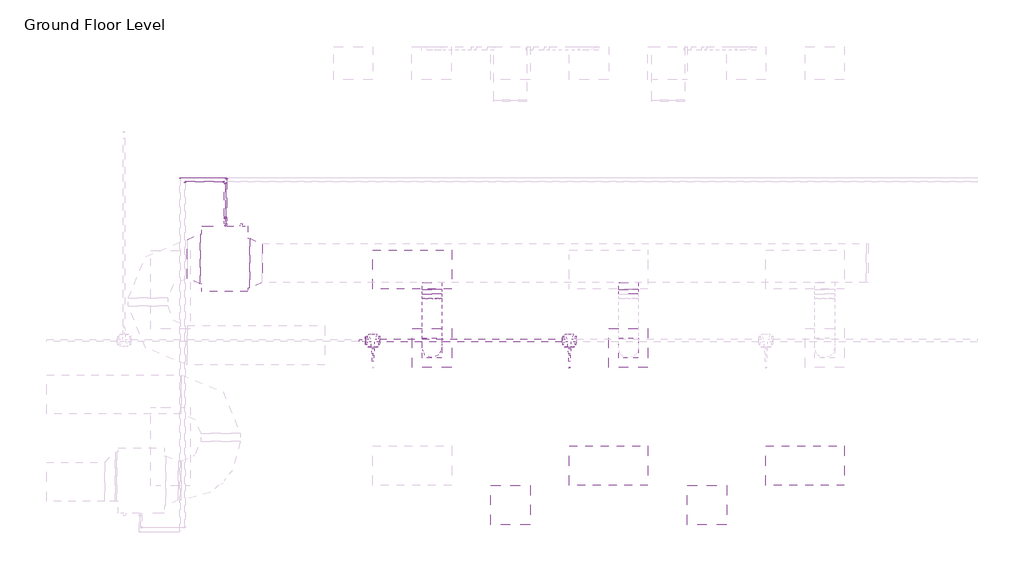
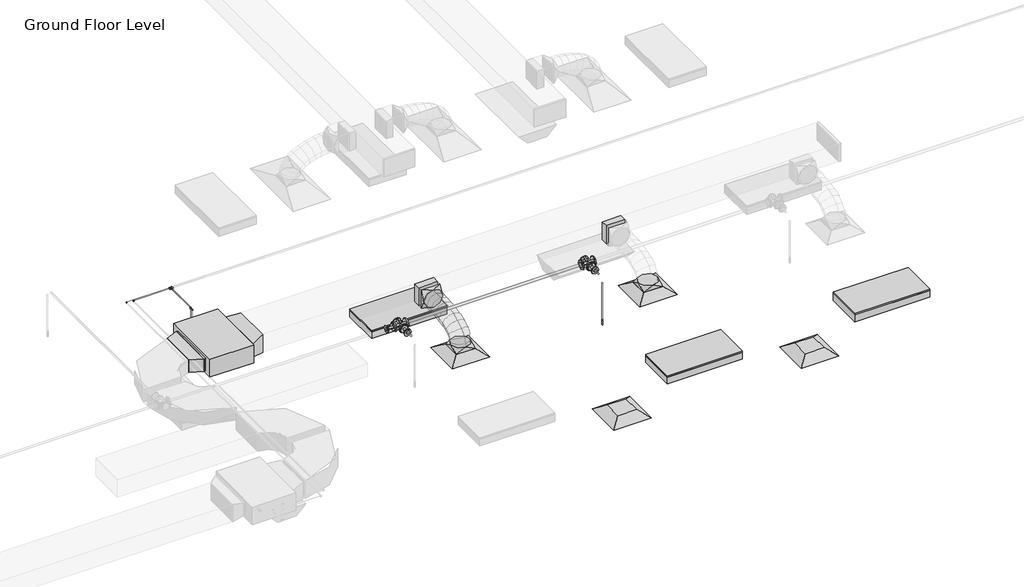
# One storey, part 12 of 74: 17 pipe fittings, 12 pipe segments, 7 duct fittings, 4 air terminals, 4 duct segments, 3 light fixtures, 1 fire suppression terminal, 1 proxy.
"""IFC4 building model written with IfcOpenShell, lengths in millimetres."""

from ifc_helpers import new_model, si_unit, point, frame, frame_2d, origin, place, context, project, spatial, polyline, circle_curve, ellipse_curve, trimmed, segment, composite_curve, outline, extrude, transform, mapped, element, save
from ifc_brep_helpers import plane_surface, cylinder_surface, advanced_brep
from components import m_return_diffuser_600_x_600_face_300_x_300_connection_ff221211, fcu_daikin_iu_7e1df382, m_rectangular_takeoff_standard_2be5eba1, m_rectangular_transition_angle_45_degree_ee72770e, m_rectangular_transition_angle_45_degree_4bb09f68, m_rectangular_to_round_transition_angle_45_degree_641efff0, m_sprinkler_dry_pendent_hosted_15_mm_dry_pendent_9bda8e11, m_troffer_light_parabolic_rectangular1_0600x1200mm_4_lamp_86473d4a, m_elbow_generic_standard_a088f956, m_elbow_generic_standard_2a704253, m_reducer_flanged_cs_class_150_standard_b6b67c23, m_reducer_flanged_cs_class_150_standard_678fb8eb, m_tee_generic_standard_5b2ed4d4, m_tee_generic_standard_5078887e, m_tee_round_base_flanged_cs_class_150_standard_9c9133d0, m_transition_generic_standard_bdcfe2c1, m_transition_generic_standard_44e35838, m_transition_generic_standard_0bb1ffaf, m_transition_generic_standard_cdf71458

model = new_model("IFC4")

# Units and contexts
model_context = context("Model", 3, world=origin())
ifc_project = project(units=[si_unit("LENGTHUNIT", "METRE", prefix="MILLI")], contexts=[model_context])

# Site, building, storey
site = spatial("IfcSite", under=ifc_project)
building = spatial("IfcBuilding", under=site)
storey = spatial("IfcBuildingStorey", under=building, Name="Ground Floor Level", Elevation=900.0)

# Air terminals
placement = place(None, origin())
m_return_diffuser_600_x_600_face_300_x_300_connection_shape = m_return_diffuser_600_x_600_face_300_x_300_connection_ff221211(model_context)
element("IfcAirTerminal", 1, ObjectType="M_Return Diffuser : 600 x 600 Face 300 x 300 Connection", at=placement, inside=storey, context=model_context, shape_type="MappedRepresentation", body=[
    mapped(m_return_diffuser_600_x_600_face_300_x_300_connection_shape, transform((-6937.2327605, -5464.7846466, 3650.0), x_axis=(1.0, 0.0, 0.0), y_axis=(0.0, 1.0, 0.0), z_axis=(0.0, 0.0, 1.0))),
])
element("IfcAirTerminal", 2, ObjectType="M_Return Diffuser : 600 x 600 Face 300 x 300 Connection", at=placement, inside=storey, context=model_context, shape_type="MappedRepresentation", body=[
    mapped(m_return_diffuser_600_x_600_face_300_x_300_connection_shape, transform((-3937.2327605, -5464.7846466, 3650.0), x_axis=(1.0, 0.0, 0.0), y_axis=(0.0, 1.0, 0.0), z_axis=(0.0, 0.0, 1.0))),
])
element("IfcAirTerminal", 3, ObjectType="M_Supply Diffuser : 600 x 600 Face 300 x 300 Connection", at=placement, inside=storey, context=model_context, shape_type="MappedRepresentation", body=[
    mapped(m_return_diffuser_600_x_600_face_300_x_300_connection_shape, transform((-8137.2327605, -3064.7846466, 3650.0), x_axis=(1.0, 0.0, 0.0), y_axis=(0.0, 1.0, 0.0), z_axis=(0.0, 0.0, 1.0))),
])
element("IfcAirTerminal", 4, ObjectType="M_Supply Diffuser : 600 x 600 Face 300 x 300 Connection", at=placement, inside=storey, context=model_context, shape_type="MappedRepresentation", body=[
    mapped(m_return_diffuser_600_x_600_face_300_x_300_connection_shape, transform((-5137.2327605, -3064.7846466, 3650.0), x_axis=(1.0, 0.0, 0.0), y_axis=(0.0, 1.0, 0.0), z_axis=(0.0, 0.0, 1.0))),
])

# Proxy
fcu_daikin_iu_shape = fcu_daikin_iu_7e1df382(model_context)
element("IfcBuildingElementProxy", 5, Name="FCU-DAIKIN IU : 5.7kW, 230V/50Hz/1Ph", ObjectType="FCU-DAIKIN IU : 5.7kW, 230V/50Hz/1Ph", at=placement, inside=storey, context=model_context, shape_type="MappedRepresentation", body=[
    mapped(fcu_daikin_iu_shape, transform((-11297.2327605, -1704.7846466, 3934.0873731), x_axis=(0.0, 1.0, 0.0), y_axis=(-1.0, 0.0, 0.0), z_axis=(0.0, 0.0, 1.0))),
])

# Duct fittings
m_rectangular_takeoff_standard_shape = m_rectangular_takeoff_standard_2be5eba1(model_context)
element("IfcDuctFitting", 6, ObjectType="M_Rectangular Takeoff : Standard", at=placement, inside=storey, context=model_context, shape_type="MappedRepresentation", body=[
    mapped(m_rectangular_takeoff_standard_shape, transform((-5137.2327605, -2068.2846466, 4099.9923494), x_axis=(0.0, -1.0, 0.0), y_axis=(-1.0, 0.0, 0.0), z_axis=(0.0, 0.0, -1.0))),
])
element("IfcDuctFitting", 7, ObjectType="M_Rectangular Takeoff : Standard", at=placement, inside=storey, context=model_context, shape_type="MappedRepresentation", body=[
    mapped(m_rectangular_takeoff_standard_shape, transform((-8137.2327605, -2068.2846466, 4099.9964558), x_axis=(0.0, -1.0, 0.0), y_axis=(-1.0, 0.0, 0.0), z_axis=(0.0, 0.0, -1.0))),
])
m_rectangular_transition_angle_45_degree_shape = m_rectangular_transition_angle_45_degree_ee72770e(model_context)
element("IfcDuctFitting", 8, ObjectType="M_Rectangular Transition - Angle : 45 Degree", at=placement, inside=storey, context=model_context, shape_type="MappedRepresentation", body=[
    mapped(m_rectangular_transition_angle_45_degree_shape, transform((-10921.8327605, -1768.2846466, 4099.9998731), x_axis=(1.0, 0.0, 0.0), y_axis=(0.0, 1.0, 0.0), z_axis=(0.0, 0.0, 1.0))),
])
m_rectangular_transition_angle_45_degree_2_shape = m_rectangular_transition_angle_45_degree_4bb09f68(model_context)
element("IfcDuctFitting", 9, ObjectType="M_Rectangular Transition - Angle : 45 Degree", at=placement, inside=storey, context=model_context, shape_type="MappedRepresentation", body=[
    mapped(m_rectangular_transition_angle_45_degree_2_shape, transform((-11872.6327605, -1704.7846466, 4075.2873731), x_axis=(1.0, 0.0, 0.0), y_axis=(0.0, 1.0, 0.0), z_axis=(0.0, 0.0, 1.0))),
])
m_rectangular_to_round_transition_angle_45_degree_shape = m_rectangular_to_round_transition_angle_45_degree_641efff0(model_context)
element("IfcDuctFitting", 10, ObjectType="M_Rectangular to Round Transition - Angle : 45 Degree", at=placement, inside=storey, context=model_context, shape_type="MappedRepresentation", body=[
    mapped(m_rectangular_to_round_transition_angle_45_degree_shape, transform((-5137.2327605, -3064.7846466, 3751.6), x_axis=(0.0, 0.0, 1.0), y_axis=(-1.0, 0.0, 0.0), z_axis=(0.0, -1.0, 0.0))),
])
element("IfcDuctFitting", 11, ObjectType="M_Rectangular to Round Transition - Angle : 45 Degree", at=placement, inside=storey, context=model_context, shape_type="MappedRepresentation", body=[
    mapped(m_rectangular_to_round_transition_angle_45_degree_shape, transform((-8137.2327605, -3064.7846466, 3751.6), x_axis=(0.0, 0.0, 1.0), y_axis=(-1.0, 0.0, 0.0), z_axis=(0.0, -1.0, 0.0))),
])
element("IfcDuctFitting", 12, ObjectType="M_Rectangular to Round Transition - Angle : 45 Degree", at=placement, inside=storey, context=model_context, shape_type="MappedRepresentation", body=[
    mapped(m_rectangular_to_round_transition_angle_45_degree_shape, transform((-8137.2327605, -2237.4451712, 4099.9964558), x_axis=(0.0, -1.0, 0.0), y_axis=(1.0, 0.0, 0.0), z_axis=(0.0, 0.0, 1.0))),
])

# Duct segments
element("IfcDuctSegment", 13, ObjectType="Flex - Round", at=placement, inside=storey, context=model_context, shape_type="AdvancedBrep", body=[
    advanced_brep(
    [(-7987.2327605, -3064.7846466, 3826.6), (-8137.2327605, -3214.7846466, 3826.6), (-8287.2327605, -3064.7846466, 3826.6), (-8137.2327605, -2914.7846466, 3826.6), (-7987.2327605, -3064.7846466, 3857.9378602), (-8137.2327605, -3214.7846466, 3883.5812643), (-8287.2327605, -3064.7846466, 3857.9378602), (-8137.2327605, -2914.7846466, 3832.2944561), (-7987.2327605, -3047.7686158, 3906.2506375), (-8137.2327605, -3181.5063715, 3978.0666298), (-8287.2327605, -3047.7686158, 3906.2506375), (-8137.2327605, -2914.03086, 3834.4346451), (-7987.2327605, -3000.5844679, 3968.7111509), (-8137.2327605, -3104.7897605, 4079.6210528), (-8287.2327605, -3000.5844679, 3968.7111509), (-8137.2327605, -2896.3791753, 3857.801249), (-7987.2327605, -2929.0281198, 4016.0694592), (-8137.2327605, -2997.9612194, 4150.3236405), (-8287.2327605, -2929.0281198, 4016.0694592), (-8137.2327605, -2860.0950201, 3881.8152779), (-7987.2327605, -2838.8954883, 4050.4134811), (-8137.2327605, -2882.4552066, 4194.3359031), (-8287.2327605, -2838.8954883, 4050.4134811), (-8137.2327605, -2795.33577, 3906.4910592), (-7987.2327605, -2735.9824904, 4073.8311356), (-8137.2327605, -2762.5424239, 4221.6218258), (-8287.2327605, -2735.9824904, 4073.8311356), (-8137.2327605, -2709.4225569, 3926.0404454), (-7987.2327605, -2626.0850428, 4088.4103415), (-8137.2327605, -2641.2350842, 4237.7146898), (-8287.2327605, -2626.0850428, 4088.4103415), (-8137.2327605, -2610.9350014, 3939.1059931), (-7987.2327605, -2514.9990625, 4096.2390176), (-8137.2327605, -2522.5037209, 4246.0821669), (-8287.2327605, -2514.9990625, 4096.2390176), (-8137.2327605, -2507.4944041, 3946.3958683), (-7987.2327605, -2408.5204663, 4099.4050828), (-8137.2327605, -2411.2115659, 4249.3913598), (-8287.2327605, -2408.5204663, 4099.4050828), (-8137.2327605, -2405.8293668, 3949.4188057), (-7987.2327605, -2312.4451712, 4099.9964558), (-8137.2327605, -2311.5218924, 3949.9992973), (-8287.2327605, -2312.4451712, 4099.9964558), (-8137.2327605, -2313.36845, 4249.9936143)],
    [
        (0, 1, circle_curve(frame((-8137.2327605, -3064.7846466, 3826.6), z_axis=(0.0, 0.0, -1.0), x_axis=(1.0, 0.0, 0.0)), 150.0)),
        (1, 2, circle_curve(frame((-8137.2327605, -3064.7846466, 3826.6), z_axis=(0.0, 0.0, -1.0), x_axis=(1.0, 0.0, 0.0)), 150.0)),
        (2, 3, circle_curve(frame((-8137.2327605, -3064.7846466, 3826.6), z_axis=(0.0, 0.0, -1.0), x_axis=(1.0, 0.0, 0.0)), 150.0)),
        (3, 0, circle_curve(frame((-8137.2327605, -3064.7846466, 3826.6), z_axis=(0.0, 0.0, -1.0), x_axis=(1.0, 0.0, 0.0)), 150.0)),
        (0, 4),
        (4, 5, ellipse_curve(frame((-8137.2327605, -3064.7846466, 3857.9378602), z_axis=(0.0, -0.16851130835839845, -0.9856997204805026), x_axis=(0.0, 0.9856997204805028, -0.1685113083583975)), 152.1761616, 150.0)),
        (5, 1),
        (5, 6, ellipse_curve(frame((-8137.2327605, -3064.7846466, 3857.9378602), z_axis=(0.0, -0.16851130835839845, -0.9856997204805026), x_axis=(0.0, 0.9856997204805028, -0.1685113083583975)), 152.1761616, 150.0)),
        (6, 2),
        (6, 7, ellipse_curve(frame((-8137.2327605, -3064.7846466, 3857.9378602), z_axis=(0.0, -0.16851130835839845, -0.9856997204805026), x_axis=(0.0, 0.9856997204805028, -0.1685113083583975)), 152.1761616, 150.0)),
        (7, 3),
        (7, 4, ellipse_curve(frame((-8137.2327605, -3064.7846466, 3857.9378602), z_axis=(0.0, -0.16851130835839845, -0.9856997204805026), x_axis=(0.0, 0.9856997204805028, -0.1685113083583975)), 152.1761616, 150.0)),
        (4, 8),
        (8, 9, ellipse_curve(frame((-8137.2327605, -3047.7686158, 3906.2506375), z_axis=(0.0, -0.47309526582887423, -0.8810112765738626), x_axis=(0.0, 0.8810112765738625, -0.4730952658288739)), 151.8002769, 150.0)),
        (9, 5),
        (9, 10, ellipse_curve(frame((-8137.2327605, -3047.7686158, 3906.2506375), z_axis=(0.0, -0.47309526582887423, -0.8810112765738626), x_axis=(0.0, 0.8810112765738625, -0.4730952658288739)), 151.8002769, 150.0)),
        (10, 6),
        (10, 11, ellipse_curve(frame((-8137.2327605, -3047.7686158, 3906.2506375), z_axis=(0.0, -0.47309526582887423, -0.8810112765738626), x_axis=(0.0, 0.8810112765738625, -0.4730952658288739)), 151.8002769, 150.0)),
        (11, 7),
        (11, 8, ellipse_curve(frame((-8137.2327605, -3047.7686158, 3906.2506375), z_axis=(0.0, -0.47309526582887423, -0.8810112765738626), x_axis=(0.0, 0.8810112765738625, -0.4730952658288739)), 151.8002769, 150.0)),
        (8, 12),
        (12, 13, ellipse_curve(frame((-8137.2327605, -3000.5844679, 3968.7111509), z_axis=(0.0, -0.7287916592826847, -0.6847355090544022), x_axis=(0.0, 0.6847355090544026, -0.7287916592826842)), 152.1832755, 150.0)),
        (13, 9),
        (13, 14, ellipse_curve(frame((-8137.2327605, -3000.5844679, 3968.7111509), z_axis=(0.0, -0.7287916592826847, -0.6847355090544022), x_axis=(0.0, 0.6847355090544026, -0.7287916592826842)), 152.1832755, 150.0)),
        (14, 10),
        (14, 15, ellipse_curve(frame((-8137.2327605, -3000.5844679, 3968.7111509), z_axis=(0.0, -0.7287916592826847, -0.6847355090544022), x_axis=(0.0, 0.6847355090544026, -0.7287916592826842)), 152.1832755, 150.0)),
        (15, 11),
        (15, 12, ellipse_curve(frame((-8137.2327605, -3000.5844679, 3968.7111509), z_axis=(0.0, -0.7287916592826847, -0.6847355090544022), x_axis=(0.0, 0.6847355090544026, -0.7287916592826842)), 152.1832755, 150.0)),
        (12, 16),
        (16, 17, ellipse_curve(frame((-8137.2327605, -2929.0281198, 4016.0694592), z_axis=(0.0, -0.8895891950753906, -0.45676149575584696), x_axis=(0.0, 0.45676149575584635, -0.8895891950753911)), 150.9170548, 150.0)),
        (17, 13),
        (17, 18, ellipse_curve(frame((-8137.2327605, -2929.0281198, 4016.0694592), z_axis=(0.0, -0.8895891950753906, -0.45676149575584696), x_axis=(0.0, 0.45676149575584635, -0.8895891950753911)), 150.9170548, 150.0)),
        (18, 14),
        (18, 19, ellipse_curve(frame((-8137.2327605, -2929.0281198, 4016.0694592), z_axis=(0.0, -0.8895891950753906, -0.45676149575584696), x_axis=(0.0, 0.45676149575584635, -0.8895891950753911)), 150.9170548, 150.0)),
        (19, 15),
        (19, 16, ellipse_curve(frame((-8137.2327605, -2929.0281198, 4016.0694592), z_axis=(0.0, -0.8895891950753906, -0.45676149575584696), x_axis=(0.0, 0.45676149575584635, -0.8895891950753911)), 150.9170548, 150.0)),
        (16, 20),
        (20, 21, ellipse_curve(frame((-8137.2327605, -2838.8954883, 4050.4134811), z_axis=(0.0, -0.9571224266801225, -0.2896837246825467), x_axis=(0.0, 0.2896837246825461, -0.9571224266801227)), 150.3699192, 150.0)),
        (21, 17),
        (21, 22, ellipse_curve(frame((-8137.2327605, -2838.8954883, 4050.4134811), z_axis=(0.0, -0.9571224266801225, -0.2896837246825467), x_axis=(0.0, 0.2896837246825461, -0.9571224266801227)), 150.3699192, 150.0)),
        (22, 18),
        (22, 23, ellipse_curve(frame((-8137.2327605, -2838.8954883, 4050.4134811), z_axis=(0.0, -0.9571224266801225, -0.2896837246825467), x_axis=(0.0, 0.2896837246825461, -0.9571224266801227)), 150.3699192, 150.0)),
        (23, 19),
        (23, 20, ellipse_curve(frame((-8137.2327605, -2838.8954883, 4050.4134811), z_axis=(0.0, -0.9571224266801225, -0.2896837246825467), x_axis=(0.0, 0.2896837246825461, -0.9571224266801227)), 150.3699192, 150.0)),
        (20, 24),
        (24, 25, ellipse_curve(frame((-8137.2327605, -2735.9824904, 4073.8311356), z_axis=(0.0, -0.984232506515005, -0.17687954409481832), x_axis=(0.0, 0.17687954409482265, -0.9842325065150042)), 150.1583104, 150.0)),
        (25, 21),
        (25, 26, ellipse_curve(frame((-8137.2327605, -2735.9824904, 4073.8311356), z_axis=(0.0, -0.984232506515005, -0.17687954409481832), x_axis=(0.0, 0.17687954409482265, -0.9842325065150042)), 150.1583104, 150.0)),
        (26, 22),
        (26, 27, ellipse_curve(frame((-8137.2327605, -2735.9824904, 4073.8311356), z_axis=(0.0, -0.984232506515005, -0.17687954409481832), x_axis=(0.0, 0.17687954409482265, -0.9842325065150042)), 150.1583104, 150.0)),
        (27, 23),
        (27, 24, ellipse_curve(frame((-8137.2327605, -2735.9824904, 4073.8311356), z_axis=(0.0, -0.984232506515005, -0.17687954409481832), x_axis=(0.0, 0.17687954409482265, -0.9842325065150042)), 150.1583104, 150.0)),
        (24, 28),
        (28, 29, ellipse_curve(frame((-8137.2327605, -2626.0850428, 4088.4103415), z_axis=(0.0, -0.9948912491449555, -0.10095247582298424), x_axis=(0.0, 0.10095247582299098, -0.9948912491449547)), 150.0710238, 150.0)),
        (29, 25),
        (29, 30, ellipse_curve(frame((-8137.2327605, -2626.0850428, 4088.4103415), z_axis=(0.0, -0.9948912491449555, -0.10095247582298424), x_axis=(0.0, 0.10095247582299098, -0.9948912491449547)), 150.0710238, 150.0)),
        (30, 26),
        (30, 31, ellipse_curve(frame((-8137.2327605, -2626.0850428, 4088.4103415), z_axis=(0.0, -0.9948912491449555, -0.10095247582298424), x_axis=(0.0, 0.10095247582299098, -0.9948912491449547)), 150.0710238, 150.0)),
        (31, 27),
        (31, 28, ellipse_curve(frame((-8137.2327605, -2626.0850428, 4088.4103415), z_axis=(0.0, -0.9948912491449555, -0.10095247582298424), x_axis=(0.0, 0.10095247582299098, -0.9948912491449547)), 150.0710238, 150.0)),
        (28, 32),
        (32, 33, ellipse_curve(frame((-8137.2327605, -2514.9990625, 4096.2390176), z_axis=(0.0, -0.9987481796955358, -0.05002073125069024), x_axis=(0.0, 0.05002073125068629, -0.998748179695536)), 150.0309611, 150.0)),
        (33, 29),
        (33, 34, ellipse_curve(frame((-8137.2327605, -2514.9990625, 4096.2390176), z_axis=(0.0, -0.9987481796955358, -0.05002073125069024), x_axis=(0.0, 0.05002073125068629, -0.998748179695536)), 150.0309611, 150.0)),
        (34, 30),
        (34, 35, ellipse_curve(frame((-8137.2327605, -2514.9990625, 4096.2390176), z_axis=(0.0, -0.9987481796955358, -0.05002073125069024), x_axis=(0.0, 0.05002073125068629, -0.998748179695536)), 150.0309611, 150.0)),
        (35, 31),
        (35, 32, ellipse_curve(frame((-8137.2327605, -2514.9990625, 4096.2390176), z_axis=(0.0, -0.9987481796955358, -0.05002073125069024), x_axis=(0.0, 0.05002073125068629, -0.998748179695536)), 150.0309611, 150.0)),
        (32, 36),
        (36, 37, ellipse_curve(frame((-8137.2327605, -2408.5204663, 4099.4050828), z_axis=(0.0, -0.9998390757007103, -0.017939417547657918), x_axis=(0.0, 0.01793941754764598, -0.9998390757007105)), 150.0104173, 150.0)),
        (37, 33),
        (37, 38, ellipse_curve(frame((-8137.2327605, -2408.5204663, 4099.4050828), z_axis=(0.0, -0.9998390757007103, -0.017939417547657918), x_axis=(0.0, 0.01793941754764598, -0.9998390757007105)), 150.0104173, 150.0)),
        (38, 34),
        (38, 39, ellipse_curve(frame((-8137.2327605, -2408.5204663, 4099.4050828), z_axis=(0.0, -0.9998390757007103, -0.017939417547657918), x_axis=(0.0, 0.01793941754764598, -0.9998390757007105)), 150.0104173, 150.0)),
        (39, 35),
        (39, 36, ellipse_curve(frame((-8137.2327605, -2408.5204663, 4099.4050828), z_axis=(0.0, -0.9998390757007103, -0.017939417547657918), x_axis=(0.0, 0.01793941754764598, -0.9998390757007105)), 150.0104173, 150.0)),
        (40, 41, circle_curve(frame((-8137.2327605, -2312.4451712, 4099.9964558), z_axis=(0.0, 0.9999810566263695, 0.006155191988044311), x_axis=(1.0, 0.0, 0.0)), 150.0)),
        (41, 42, circle_curve(frame((-8137.2327605, -2312.4451712, 4099.9964558), z_axis=(0.0, 0.9999810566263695, 0.006155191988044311), x_axis=(1.0, 0.0, 0.0)), 150.0)),
        (42, 43, circle_curve(frame((-8137.2327605, -2312.4451712, 4099.9964558), z_axis=(0.0, 0.9999810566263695, 0.006155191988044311), x_axis=(1.0, 0.0, 0.0)), 150.0)),
        (43, 40, circle_curve(frame((-8137.2327605, -2312.4451712, 4099.9964558), z_axis=(0.0, 0.9999810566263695, 0.006155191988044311), x_axis=(1.0, 0.0, 0.0)), 150.0)),
        (36, 40),
        (43, 37),
        (42, 38),
        (41, 39),
    ],
    [
        plane_surface(frame((-8137.2327605, -3214.7846466, 3826.6), z_axis=(0.0, 0.0, -1.0), x_axis=(1.0, 0.0, 0.0))),
        cylinder_surface(frame((-8137.2327605, -3064.7846466, 3826.6), z_axis=(0.0, 0.0, -1.0), x_axis=(1.0, 0.0, 0.0)), 150.0),
        cylinder_surface(frame((-8137.2327605, -3064.7846466, 3857.9378602), z_axis=(0.0, -0.3322030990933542, -0.9432078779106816), x_axis=(1.0, 0.0, 0.0)), 150.0),
        cylinder_surface(frame((-8137.2327605, -3047.7686158, 3906.2506375), z_axis=(0.0, -0.6027660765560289, -0.7979179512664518), x_axis=(1.0, 0.0, 0.0)), 150.0),
        cylinder_surface(frame((-8137.2327605, -3000.5844679, 3968.7111509), z_axis=(0.0, -0.8339062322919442, -0.5519061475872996), x_axis=(1.0, 0.0, 0.0)), 150.0),
        cylinder_surface(frame((-8137.2327605, -2929.0281198, 4016.0694592), z_axis=(0.0, -0.9344608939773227, -0.356065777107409), x_axis=(1.0, 0.0, 0.0)), 150.0),
        cylinder_surface(frame((-8137.2327605, -2838.8954883, 4050.4134811), z_axis=(0.0, -0.9750748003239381, -0.22187639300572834), x_axis=(1.0, 0.0, 0.0)), 150.0),
        cylinder_surface(frame((-8137.2327605, -2735.9824904, 4073.8311356), z_axis=(0.0, -0.9913148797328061, -0.13150973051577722), x_axis=(1.0, 0.0, 0.0)), 150.0),
        cylinder_surface(frame((-8137.2327605, -2626.0850428, 4088.4103415), z_axis=(0.0, -0.9975259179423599, -0.07029966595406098), x_axis=(1.0, 0.0, 0.0)), 150.0),
        cylinder_surface(frame((-8137.2327605, -2514.9990625, 4096.2390176), z_axis=(0.0, -0.9995582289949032, -0.029721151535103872), x_axis=(1.0, 0.0, 0.0)), 150.0),
        plane_surface(frame((-8137.2327605, -2313.36845, 4249.9936143), z_axis=(0.0, 0.9999810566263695, 0.006155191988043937), x_axis=(1.0, 0.0, 0.0))),
        cylinder_surface(frame((-8137.2327605, -2408.5204663, 4099.4050828), z_axis=(0.0, -0.9999810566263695, -0.006155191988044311), x_axis=(1.0, 0.0, 0.0)), 150.0),
    ],
    [
        (0, [[1, 2, 3, 4]]),
        (1, [[-1, 5, 6, 7]]),
        (1, [[-2, -7, 8, 9]]),
        (1, [[-3, -9, 10, 11]]),
        (1, [[-4, -11, 12, -5]]),
        (2, [[-6, 13, 14, 15]]),
        (2, [[-8, -15, 16, 17]]),
        (2, [[-10, -17, 18, 19]]),
        (2, [[-12, -19, 20, -13]]),
        (3, [[-14, 21, 22, 23]]),
        (3, [[-16, -23, 24, 25]]),
        (3, [[-18, -25, 26, 27]]),
        (3, [[-20, -27, 28, -21]]),
        (4, [[-22, 29, 30, 31]]),
        (4, [[-24, -31, 32, 33]]),
        (4, [[-26, -33, 34, 35]]),
        (4, [[-28, -35, 36, -29]]),
        (5, [[-30, 37, 38, 39]]),
        (5, [[-32, -39, 40, 41]]),
        (5, [[-34, -41, 42, 43]]),
        (5, [[-36, -43, 44, -37]]),
        (6, [[-38, 45, 46, 47]]),
        (6, [[-40, -47, 48, 49]]),
        (6, [[-42, -49, 50, 51]]),
        (6, [[-44, -51, 52, -45]]),
        (7, [[-46, 53, 54, 55]]),
        (7, [[-48, -55, 56, 57]]),
        (7, [[-50, -57, 58, 59]]),
        (7, [[-52, -59, 60, -53]]),
        (8, [[-54, 61, 62, 63]]),
        (8, [[-56, -63, 64, 65]]),
        (8, [[-58, -65, 66, 67]]),
        (8, [[-60, -67, 68, -61]]),
        (9, [[-62, 69, 70, 71]]),
        (9, [[-64, -71, 72, 73]]),
        (9, [[-66, -73, 74, 75]]),
        (9, [[-68, -75, 76, -69]]),
        (10, [[77, 78, 79, 80]]),
        (11, [[-70, 81, -80, 82]]),
        (11, [[-72, -82, -79, 83]]),
        (11, [[-74, -83, -78, 84]]),
        (11, [[-76, -84, -77, -81]]),
    ],
),
])
element("IfcDuctSegment", 14, ObjectType="Radius Elbows / Taps", at=placement, inside=storey, context=model_context, shape_type="SweptSolid", body=[
    extrude(outline(polyline([(-11672.6327605, -1323.8471466), (-11672.6327605, -2085.7221466), (-11677.2323503, -2085.7221466), (-11677.2323503, -1323.8471466), (-11672.6327605, -1323.8471466)])), frame((0.0, 0.0, 3968.1373731), z_axis=(0.0, 0.0, 1.0), x_axis=(1.0, 0.0, 0.0)), (0.0, 0.0, 1.0), 214.3),
])
element("IfcDuctSegment", 15, ObjectType="Radius Elbows / Taps", at=placement, inside=storey, context=model_context, shape_type="SweptSolid", body=[
    extrude(outline(polyline([(-5287.2327605, -2169.8846466), (-4987.2327605, -2169.8846466), (-4987.2327605, -2237.4410647), (-5287.2327605, -2237.4410647), (-5287.2327605, -2169.8846466)])), frame((0.0, 0.0, 3949.9923494), z_axis=(0.0, 0.0, 1.0), x_axis=(1.0, 0.0, 0.0)), (0.0, 0.0, 1.0), 300.0),
])
element("IfcDuctSegment", 16, ObjectType="Radius Elbows / Taps", at=placement, inside=storey, context=model_context, shape_type="SweptSolid", body=[
    extrude(outline(polyline([(-8287.2327605, -2169.8846466), (-7987.2327605, -2169.8846466), (-7987.2327605, -2237.4451712), (-8287.2327605, -2237.4451712), (-8287.2327605, -2169.8846466)])), frame((0.0, 0.0, 3949.9964558), z_axis=(0.0, 0.0, 1.0), x_axis=(1.0, 0.0, 0.0)), (0.0, 0.0, 1.0), 300.0),
])

# Fire suppression terminal
m_sprinkler_dry_pendent_hosted_15_mm_dry_pendent_shape = m_sprinkler_dry_pendent_hosted_15_mm_dry_pendent_9bda8e11(model_context)
element("IfcFireSuppressionTerminal", 17, ObjectType="M_Sprinkler - Dry - Pendent - Hosted : 15 mm Dry Pendent", at=placement, inside=storey, context=model_context, shape_type="MappedRepresentation", body=[
    mapped(m_sprinkler_dry_pendent_hosted_15_mm_dry_pendent_shape, transform((-6037.2327605, -3364.7846466, 3650.0), x_axis=(1.0, 0.0, 0.0), y_axis=(0.0, -1.0, 0.0), z_axis=(0.0, 0.0, -1.0))),
])

# Light fixtures
m_troffer_light_parabolic_rectangular1_0600x1200mm_4_lamp_shape = m_troffer_light_parabolic_rectangular1_0600x1200mm_4_lamp_86473d4a(model_context)
element("IfcLightFixture", 18, ObjectType="M_Troffer Light - Parabolic Rectangular1 : 0600x1200mm(4 Lamp) - 277V 2", at=placement, inside=storey, context=model_context, shape_type="MappedRepresentation", body=[
    mapped(m_troffer_light_parabolic_rectangular1_0600x1200mm_4_lamp_shape, transform((-8418.5292589, -1805.3187145, 3650.0), x_axis=(1.0, 0.0, 0.0), y_axis=(0.0, 1.0, 0.0), z_axis=(0.0, 0.0, 1.0))),
])
element("IfcLightFixture", 19, ObjectType="M_Troffer Light - Parabolic Rectangular1 : 0600x1200mm(4 Lamp) - 277V 2", at=placement, inside=storey, context=model_context, shape_type="MappedRepresentation", body=[
    mapped(m_troffer_light_parabolic_rectangular1_0600x1200mm_4_lamp_shape, transform((-2418.5292589, -4805.3187145, 3650.0), x_axis=(1.0, 0.0, 0.0), y_axis=(0.0, 1.0, 0.0), z_axis=(0.0, 0.0, 1.0))),
])
element("IfcLightFixture", 20, ObjectType="M_Troffer Light - Parabolic Rectangular1 : 0600x1200mm(4 Lamp) - 277V 2", at=placement, inside=storey, context=model_context, shape_type="MappedRepresentation", body=[
    mapped(m_troffer_light_parabolic_rectangular1_0600x1200mm_4_lamp_shape, transform((-5418.5292589, -4805.3187145, 3650.0), x_axis=(1.0, 0.0, 0.0), y_axis=(0.0, 1.0, 0.0), z_axis=(0.0, 0.0, 1.0))),
])

# Pipe fittings
m_elbow_generic_standard_shape = m_elbow_generic_standard_a088f956(model_context)
element("IfcPipeFitting", 21, ObjectType="M_Elbow - Generic : Standard", at=placement, inside=storey, context=model_context, shape_type="MappedRepresentation", body=[
    mapped(m_elbow_generic_standard_shape, transform((-11297.2327605, -1071.9971568, 4034.0873731), x_axis=(0.0, 1.0, 0.0), y_axis=(0.0, 0.0, 1.0), z_axis=(1.0, 0.0, 0.0))),
])
element("IfcPipeFitting", 22, ObjectType="M_Elbow - Generic : Standard", at=placement, inside=storey, context=model_context, shape_type="MappedRepresentation", body=[
    mapped(m_elbow_generic_standard_shape, transform((-11297.2327605, -1071.9971568, 4300.0), x_axis=(0.0, 0.0, 1.0), y_axis=(0.0, 1.0, 0.0), z_axis=(-1.0, 0.0, 0.0))),
])
element("IfcPipeFitting", 23, ObjectType="M_Elbow - Generic : Standard", at=placement, inside=storey, context=model_context, shape_type="MappedRepresentation", body=[
    mapped(m_elbow_generic_standard_shape, transform((-11906.7458667, -523.9901455, 4300.0), x_axis=(-1.0, 0.0, 0.0), y_axis=(0.0, -1.0, 0.0), z_axis=(0.0, 0.0, 1.0))),
])
m_elbow_generic_standard_2_shape = m_elbow_generic_standard_2a704253(model_context)
element("IfcPipeFitting", 24, ObjectType="M_Elbow - Generic : Standard", at=placement, inside=storey, context=model_context, shape_type="MappedRepresentation", body=[
    mapped(m_elbow_generic_standard_2_shape, transform((-11272.2327605, -1075.1472648, 4084.8873731), x_axis=(0.0, 1.0, 0.0), y_axis=(0.0, 0.0, 1.0), z_axis=(1.0, 0.0, 0.0))),
])
element("IfcPipeFitting", 25, ObjectType="M_Elbow - Generic : Standard", at=placement, inside=storey, context=model_context, shape_type="MappedRepresentation", body=[
    mapped(m_elbow_generic_standard_2_shape, transform((-11272.2327605, -1075.1472648, 4265.0), x_axis=(0.0, 0.0, 1.0), y_axis=(0.0, 1.0, 0.0), z_axis=(-1.0, 0.0, 0.0))),
])
element("IfcPipeFitting", 26, ObjectType="M_Elbow - Generic : Standard", at=placement, inside=storey, context=model_context, shape_type="MappedRepresentation", body=[
    mapped(m_elbow_generic_standard_2_shape, transform((-11985.4153711, -465.9814862, 4265.0), x_axis=(-1.0, 0.0, 0.0), y_axis=(0.0, -1.0, 0.0), z_axis=(0.0, 0.0, 1.0))),
])
m_reducer_flanged_cs_class_150_standard_shape = m_reducer_flanged_cs_class_150_standard_b6b67c23(model_context)
element("IfcPipeFitting", 27, ObjectType="M_Reducer - Flanged - CS - Class 150 : Standard", at=placement, inside=storey, context=model_context, shape_type="MappedRepresentation", body=[
    mapped(m_reducer_flanged_cs_class_150_standard_shape, transform((-9143.3313543, -2950.3491993, 4360.0), x_axis=(-1.0, 0.0, 0.0), y_axis=(0.0, -1.0, 0.0), z_axis=(0.0, 0.0, 1.0))),
])
m_reducer_flanged_cs_class_150_standard_2_shape = m_reducer_flanged_cs_class_150_standard_678fb8eb(model_context)
element("IfcPipeFitting", 28, ObjectType="M_Reducer - Flanged - CS - Class 150 : Standard", at=placement, inside=storey, context=model_context, shape_type="MappedRepresentation", body=[
    mapped(m_reducer_flanged_cs_class_150_standard_2_shape, transform((-6037.2327605, -3056.447793, 4360.0), x_axis=(0.0, -1.0, 0.0), y_axis=(1.0, 0.0, 0.0), z_axis=(0.0, 0.0, 1.0))),
])
element("IfcPipeFitting", 29, ObjectType="M_Reducer - Flanged - CS - Class 150 : Standard", at=placement, inside=storey, context=model_context, shape_type="MappedRepresentation", body=[
    mapped(m_reducer_flanged_cs_class_150_standard_2_shape, transform((-9037.2327605, -3056.447793, 4360.0), x_axis=(0.0, -1.0, 0.0), y_axis=(1.0, 0.0, 0.0), z_axis=(0.0, 0.0, 1.0))),
])
m_tee_generic_standard_shape = m_tee_generic_standard_5b2ed4d4(model_context)
element("IfcPipeFitting", 30, ObjectType="M_Tee - Generic : Standard", at=placement, inside=storey, context=model_context, shape_type="MappedRepresentation", body=[
    mapped(m_tee_generic_standard_shape, transform((-11272.2327605, -465.9814862, 4265.0), x_axis=(1.0, 0.0, 0.0), y_axis=(0.0, 1.0, 0.0), z_axis=(0.0, 0.0, 1.0))),
])
m_tee_generic_standard_2_shape = m_tee_generic_standard_5078887e(model_context)
element("IfcPipeFitting", 31, ObjectType="M_Tee - Generic : Standard", at=placement, inside=storey, context=model_context, shape_type="MappedRepresentation", body=[
    mapped(m_tee_generic_standard_2_shape, transform((-11297.2327605, -523.9901455, 4300.0), x_axis=(1.0, 0.0, 0.0), y_axis=(0.0, 1.0, 0.0), z_axis=(0.0, 0.0, 1.0))),
])
m_tee_round_base_flanged_cs_class_150_standard_shape = m_tee_round_base_flanged_cs_class_150_standard_9c9133d0(model_context)
element("IfcPipeFitting", 32, ObjectType="M_Tee Round Base - Flanged - CS - Class 150 : Standard", at=placement, inside=storey, context=model_context, shape_type="MappedRepresentation", body=[
    mapped(m_tee_round_base_flanged_cs_class_150_standard_shape, transform((-6037.2327605, -2950.3491993, 4360.0), x_axis=(1.0, 0.0, 0.0), y_axis=(0.0, 1.0, 0.0), z_axis=(0.0, 0.0, 1.0))),
])
element("IfcPipeFitting", 33, ObjectType="M_Tee Round Base - Flanged - CS - Class 150 : Standard", at=placement, inside=storey, context=model_context, shape_type="MappedRepresentation", body=[
    mapped(m_tee_round_base_flanged_cs_class_150_standard_shape, transform((-9037.2327605, -2950.3491993, 4360.0), x_axis=(1.0, 0.0, 0.0), y_axis=(0.0, 1.0, 0.0), z_axis=(0.0, 0.0, 1.0))),
])
m_transition_generic_standard_shape = m_transition_generic_standard_bdcfe2c1(model_context)
element("IfcPipeFitting", 34, ObjectType="M_Transition - Generic : Standard", at=placement, inside=storey, context=model_context, shape_type="MappedRepresentation", body=[
    mapped(m_transition_generic_standard_shape, transform((-11272.2327605, -486.6189862, 4265.0), x_axis=(0.0, -1.0, 0.0), y_axis=(1.0, 0.0, 0.0), z_axis=(0.0, 0.0, 1.0))),
])
m_transition_generic_standard_2_shape = m_transition_generic_standard_44e35838(model_context)
element("IfcPipeFitting", 35, ObjectType="M_Transition - Generic : Standard", at=placement, inside=storey, context=model_context, shape_type="MappedRepresentation", body=[
    mapped(m_transition_generic_standard_2_shape, transform((-11297.2327605, -547.8026455, 4300.0), x_axis=(0.0, -1.0, 0.0), y_axis=(1.0, 0.0, 0.0), z_axis=(0.0, 0.0, 1.0))),
])
m_transition_generic_standard_3_shape = m_transition_generic_standard_0bb1ffaf(model_context)
element("IfcPipeFitting", 36, ObjectType="M_Transition - Generic : Standard", at=placement, inside=storey, context=model_context, shape_type="MappedRepresentation", body=[
    mapped(m_transition_generic_standard_3_shape, transform((-11326.6015105, -523.9901455, 4300.0), x_axis=(1.0, 0.0, 0.0), y_axis=(0.0, 1.0, 0.0), z_axis=(0.0, 0.0, 1.0))),
])
m_transition_generic_standard_4_shape = m_transition_generic_standard_cdf71458(model_context)
element("IfcPipeFitting", 37, ObjectType="M_Transition - Generic : Standard", at=placement, inside=storey, context=model_context, shape_type="MappedRepresentation", body=[
    mapped(m_transition_generic_standard_4_shape, transform((-11296.8390105, -465.9814862, 4265.0), x_axis=(1.0, 0.0, 0.0), y_axis=(0.0, 1.0, 0.0), z_axis=(0.0, 0.0, 1.0))),
])

# Pipe segments
element("IfcPipeSegment", 38, ObjectType="Copper", at=placement, inside=storey, context=model_context, shape_type="SweptSolid", body=[
    extrude(outline(composite_curve([segment(trimmed(circle_curve(frame_2d((-465.9814862, 4265.0)), 3.35), [point((-469.3314862, 4265.0))], [point((-465.9814862, 4268.35))], False, "CARTESIAN"), True, "CONTINUOUS"), segment(trimmed(circle_curve(frame_2d((-465.9814862, 4265.0)), 3.35), [point((-465.9814862, 4268.35))], [point((-462.6314862, 4265.0))], False, "CARTESIAN"), True, "CONTINUOUS"), segment(trimmed(circle_curve(frame_2d((-465.9814862, 4265.0)), 3.35), [point((-462.6314862, 4265.0))], [point((-465.9814862, 4261.65))], False, "CARTESIAN"), True, "CONTINUOUS"), segment(trimmed(circle_curve(frame_2d((-465.9814862, 4265.0)), 3.35), [point((-465.9814862, 4261.65))], [point((-469.3314862, 4265.0))], False, "CARTESIAN"), True, "CONTINUOUS")], self_intersect=False)), frame((-11974.2778711, 0.0, 0.0), z_axis=(1.0, 0.0, 0.0), x_axis=(0.0, 1.0, 0.0)), (0.0, 0.0, 1.0), 677.4388606),
])
element("IfcPipeSegment", 39, ObjectType="Copper", at=placement, inside=storey, context=model_context, shape_type="SweptSolid", body=[
    extrude(outline(composite_curve([segment(trimmed(circle_curve(frame_2d((4300.0, -11297.2327605)), 6.5), [point((4300.0, -11290.7327605))], [point((4306.5, -11297.2327605))], False, "CARTESIAN"), True, "CONTINUOUS"), segment(trimmed(circle_curve(frame_2d((4300.0, -11297.2327605)), 6.5), [point((4306.5, -11297.2327605))], [point((4300.0, -11303.7327605))], False, "CARTESIAN"), True, "CONTINUOUS"), segment(trimmed(circle_curve(frame_2d((4300.0, -11297.2327605)), 6.5), [point((4300.0, -11303.7327605))], [point((4293.5, -11297.2327605))], False, "CARTESIAN"), True, "CONTINUOUS"), segment(trimmed(circle_curve(frame_2d((4300.0, -11297.2327605)), 6.5), [point((4293.5, -11297.2327605))], [point((4300.0, -11290.7327605))], False, "CARTESIAN"), True, "CONTINUOUS")], self_intersect=False)), frame((0.0, -1057.7096568, 0.0), z_axis=(0.0, 1.0, 0.0), x_axis=(0.0, 0.0, 1.0)), (0.0, 0.0, 1.0), 504.3507613),
])
element("IfcPipeSegment", 40, ObjectType="Copper", at=placement, inside=storey, context=model_context, shape_type="SweptSolid", body=[
    extrude(outline(composite_curve([segment(trimmed(circle_curve(frame_2d((4084.8873731, -11272.2327605)), 3.35), [point((4084.8873731, -11268.8827605))], [point((4088.2373731, -11272.2327605))], False, "CARTESIAN"), True, "CONTINUOUS"), segment(trimmed(circle_curve(frame_2d((4084.8873731, -11272.2327605)), 3.35), [point((4088.2373731, -11272.2327605))], [point((4084.8873731, -11275.5827605))], False, "CARTESIAN"), True, "CONTINUOUS"), segment(trimmed(circle_curve(frame_2d((4084.8873731, -11272.2327605)), 3.35), [point((4084.8873731, -11275.5827605))], [point((4081.5373731, -11272.2327605))], False, "CARTESIAN"), True, "CONTINUOUS"), segment(trimmed(circle_curve(frame_2d((4084.8873731, -11272.2327605)), 3.35), [point((4081.5373731, -11272.2327605))], [point((4084.8873731, -11268.8827605))], False, "CARTESIAN"), True, "CONTINUOUS")], self_intersect=False)), frame((0.0, -1166.6846466, 0.0), z_axis=(0.0, 1.0, 0.0), x_axis=(0.0, 0.0, 1.0)), (0.0, 0.0, 1.0), 80.3998818),
])
element("IfcPipeSegment", 41, ObjectType="Copper", at=placement, inside=storey, context=model_context, shape_type="SweptSolid", body=[
    extrude(outline(composite_curve([segment(trimmed(circle_curve(frame_2d((-11272.2327605, -1075.1472648)), 3.35), [point((-11275.5827605, -1075.1472648))], [point((-11272.2327605, -1071.7972648))], False, "CARTESIAN"), True, "CONTINUOUS"), segment(trimmed(circle_curve(frame_2d((-11272.2327605, -1075.1472648)), 3.35), [point((-11272.2327605, -1071.7972648))], [point((-11268.8827605, -1075.1472648))], False, "CARTESIAN"), True, "CONTINUOUS"), segment(trimmed(circle_curve(frame_2d((-11272.2327605, -1075.1472648)), 3.35), [point((-11268.8827605, -1075.1472648))], [point((-11272.2327605, -1078.4972648))], False, "CARTESIAN"), True, "CONTINUOUS"), segment(trimmed(circle_curve(frame_2d((-11272.2327605, -1075.1472648)), 3.35), [point((-11272.2327605, -1078.4972648))], [point((-11275.5827605, -1075.1472648))], False, "CARTESIAN"), True, "CONTINUOUS")], self_intersect=False)), frame((0.0, 0.0, 4096.0248731), z_axis=(0.0, 0.0, 1.0), x_axis=(1.0, 0.0, 0.0)), (0.0, 0.0, 1.0), 157.8376269),
])
element("IfcPipeSegment", 42, ObjectType="Copper", at=placement, inside=storey, context=model_context, shape_type="SweptSolid", body=[
    extrude(outline(composite_curve([segment(trimmed(circle_curve(frame_2d((4265.0, -11272.2327605)), 3.35), [point((4265.0, -11268.8827605))], [point((4268.35, -11272.2327605))], False, "CARTESIAN"), True, "CONTINUOUS"), segment(trimmed(circle_curve(frame_2d((4265.0, -11272.2327605)), 3.35), [point((4268.35, -11272.2327605))], [point((4265.0, -11275.5827605))], False, "CARTESIAN"), True, "CONTINUOUS"), segment(trimmed(circle_curve(frame_2d((4265.0, -11272.2327605)), 3.35), [point((4265.0, -11275.5827605))], [point((4261.65, -11272.2327605))], False, "CARTESIAN"), True, "CONTINUOUS"), segment(trimmed(circle_curve(frame_2d((4265.0, -11272.2327605)), 3.35), [point((4261.65, -11272.2327605))], [point((4265.0, -11268.8827605))], False, "CARTESIAN"), True, "CONTINUOUS")], self_intersect=False)), frame((0.0, -1064.0097648, 0.0), z_axis=(0.0, 1.0, 0.0), x_axis=(0.0, 0.0, 1.0)), (0.0, 0.0, 1.0), 573.4220286),
])
element("IfcPipeSegment", 43, ObjectType="Copper", at=placement, inside=storey, context=model_context, shape_type="SweptSolid", body=[
    extrude(outline(composite_curve([segment(trimmed(circle_curve(frame_2d((4034.0873731, -11297.2327605)), 6.5), [point((4034.0873731, -11290.7327605))], [point((4040.5873731, -11297.2327605))], False, "CARTESIAN"), True, "CONTINUOUS"), segment(trimmed(circle_curve(frame_2d((4034.0873731, -11297.2327605)), 6.5), [point((4040.5873731, -11297.2327605))], [point((4034.0873731, -11303.7327605))], False, "CARTESIAN"), True, "CONTINUOUS"), segment(trimmed(circle_curve(frame_2d((4034.0873731, -11297.2327605)), 6.5), [point((4034.0873731, -11303.7327605))], [point((4027.5873731, -11297.2327605))], False, "CARTESIAN"), True, "CONTINUOUS"), segment(trimmed(circle_curve(frame_2d((4034.0873731, -11297.2327605)), 6.5), [point((4027.5873731, -11297.2327605))], [point((4034.0873731, -11290.7327605))], False, "CARTESIAN"), True, "CONTINUOUS")], self_intersect=False)), frame((0.0, -1166.6846466, 0.0), z_axis=(0.0, 1.0, 0.0), x_axis=(0.0, 0.0, 1.0)), (0.0, 0.0, 1.0), 80.3999898),
])
element("IfcPipeSegment", 44, ObjectType="Copper", at=placement, inside=storey, context=model_context, shape_type="SweptSolid", body=[
    extrude(outline(composite_curve([segment(trimmed(circle_curve(frame_2d((-11297.2327605, -1071.9971568)), 6.5), [point((-11303.7327605, -1071.9971568))], [point((-11297.2327605, -1065.4971568))], False, "CARTESIAN"), True, "CONTINUOUS"), segment(trimmed(circle_curve(frame_2d((-11297.2327605, -1071.9971568)), 6.5), [point((-11297.2327605, -1065.4971568))], [point((-11290.7327605, -1071.9971568))], False, "CARTESIAN"), True, "CONTINUOUS"), segment(trimmed(circle_curve(frame_2d((-11297.2327605, -1071.9971568)), 6.5), [point((-11290.7327605, -1071.9971568))], [point((-11297.2327605, -1078.4971568))], False, "CARTESIAN"), True, "CONTINUOUS"), segment(trimmed(circle_curve(frame_2d((-11297.2327605, -1071.9971568)), 6.5), [point((-11297.2327605, -1078.4971568))], [point((-11303.7327605, -1071.9971568))], False, "CARTESIAN"), True, "CONTINUOUS")], self_intersect=False)), frame((0.0, 0.0, 4048.3748731), z_axis=(0.0, 0.0, 1.0), x_axis=(1.0, 0.0, 0.0)), (0.0, 0.0, 1.0), 237.3376269),
])
element("IfcPipeSegment", 45, ObjectType="Copper", at=placement, inside=storey, context=model_context, shape_type="SweptSolid", body=[
    extrude(outline(composite_curve([segment(trimmed(circle_curve(frame_2d((-523.9901455, 4300.0)), 6.5), [point((-530.4901455, 4300.0))], [point((-523.9901455, 4306.5))], False, "CARTESIAN"), True, "CONTINUOUS"), segment(trimmed(circle_curve(frame_2d((-523.9901455, 4300.0)), 6.5), [point((-523.9901455, 4306.5))], [point((-517.4901455, 4300.0))], False, "CARTESIAN"), True, "CONTINUOUS"), segment(trimmed(circle_curve(frame_2d((-523.9901455, 4300.0)), 6.5), [point((-517.4901455, 4300.0))], [point((-523.9901455, 4293.5))], False, "CARTESIAN"), True, "CONTINUOUS"), segment(trimmed(circle_curve(frame_2d((-523.9901455, 4300.0)), 6.5), [point((-523.9901455, 4293.5))], [point((-530.4901455, 4300.0))], False, "CARTESIAN"), True, "CONTINUOUS")], self_intersect=False)), frame((-11892.4583667, 0.0, 0.0), z_axis=(1.0, 0.0, 0.0), x_axis=(0.0, 1.0, 0.0)), (0.0, 0.0, 1.0), 565.8568562),
])
element("IfcPipeSegment", 46, ObjectType="Steel flanged", at=placement, inside=storey, context=model_context, shape_type="SweptSolid", body=[
    extrude(outline(composite_curve([segment(trimmed(circle_curve(frame_2d((-6037.2327605, -3364.7846466)), 10.668), [point((-6047.9007605, -3364.7846466))], [point((-6037.2327605, -3354.1166466))], False, "CARTESIAN"), True, "CONTINUOUS"), segment(trimmed(circle_curve(frame_2d((-6037.2327605, -3364.7846466)), 10.668), [point((-6037.2327605, -3354.1166466))], [point((-6026.5647605, -3364.7846466))], False, "CARTESIAN"), True, "CONTINUOUS"), segment(trimmed(circle_curve(frame_2d((-6037.2327605, -3364.7846466)), 10.668), [point((-6026.5647605, -3364.7846466))], [point((-6037.2327605, -3375.4526466))], False, "CARTESIAN"), True, "CONTINUOUS"), segment(trimmed(circle_curve(frame_2d((-6037.2327605, -3364.7846466)), 10.668), [point((-6037.2327605, -3375.4526466))], [point((-6047.9007605, -3364.7846466))], False, "CARTESIAN"), True, "CONTINUOUS")], self_intersect=False)), frame((0.0, 0.0, 3650.0), z_axis=(0.0, 0.0, 1.0), x_axis=(1.0, 0.0, 0.0)), (0.0, 0.0, 1.0), 616.9914062),
])
element("IfcPipeSegment", 47, ObjectType="Steel flanged", at=placement, inside=storey, context=model_context, shape_type="SweptSolid", body=[
    extrude(outline(composite_curve([segment(trimmed(circle_curve(frame_2d((4360.0, -6037.2327605)), 10.668), [point((4360.0, -6026.5647605))], [point((4370.668, -6037.2327605))], False, "CARTESIAN"), True, "CONTINUOUS"), segment(trimmed(circle_curve(frame_2d((4360.0, -6037.2327605)), 10.668), [point((4370.668, -6037.2327605))], [point((4360.0, -6047.9007605))], False, "CARTESIAN"), True, "CONTINUOUS"), segment(trimmed(circle_curve(frame_2d((4360.0, -6037.2327605)), 10.668), [point((4360.0, -6047.9007605))], [point((4349.332, -6037.2327605))], False, "CARTESIAN"), True, "CONTINUOUS"), segment(trimmed(circle_curve(frame_2d((4360.0, -6037.2327605)), 10.668), [point((4349.332, -6037.2327605))], [point((4360.0, -6026.5647605))], False, "CARTESIAN"), True, "CONTINUOUS")], self_intersect=False)), frame((0.0, -3271.7760529, 0.0), z_axis=(0.0, 1.0, 0.0), x_axis=(0.0, 0.0, 1.0)), (0.0, 0.0, 1.0), 101.3282598),
])
element("IfcPipeSegment", 48, ObjectType="Steel flanged", at=placement, inside=storey, context=model_context, shape_type="SweptSolid", body=[
    extrude(outline(composite_curve([segment(trimmed(circle_curve(frame_2d((4360.0, -9037.2327605)), 10.668), [point((4360.0, -9026.5647605))], [point((4370.668, -9037.2327605))], False, "CARTESIAN"), True, "CONTINUOUS"), segment(trimmed(circle_curve(frame_2d((4360.0, -9037.2327605)), 10.668), [point((4370.668, -9037.2327605))], [point((4360.0, -9047.9007605))], False, "CARTESIAN"), True, "CONTINUOUS"), segment(trimmed(circle_curve(frame_2d((4360.0, -9037.2327605)), 10.668), [point((4360.0, -9047.9007605))], [point((4349.332, -9037.2327605))], False, "CARTESIAN"), True, "CONTINUOUS"), segment(trimmed(circle_curve(frame_2d((4360.0, -9037.2327605)), 10.668), [point((4349.332, -9037.2327605))], [point((4360.0, -9026.5647605))], False, "CARTESIAN"), True, "CONTINUOUS")], self_intersect=False)), frame((0.0, -3271.7760529, 0.0), z_axis=(0.0, 1.0, 0.0), x_axis=(0.0, 0.0, 1.0)), (0.0, 0.0, 1.0), 101.3282598),
])
element("IfcPipeSegment", 49, ObjectType="Steel flanged", at=placement, inside=storey, context=model_context, shape_type="SweptSolid", body=[
    extrude(outline(composite_curve([segment(trimmed(circle_curve(frame_2d((-2950.3491993, 4360.0)), 21.082), [point((-2929.2671993, 4360.0))], [point((-2950.3491993, 4338.918))], False, "CARTESIAN"), True, "CONTINUOUS"), segment(trimmed(circle_curve(frame_2d((-2950.3491993, 4360.0)), 21.082), [point((-2950.3491993, 4338.918))], [point((-2971.4311993, 4360.0))], False, "CARTESIAN"), True, "CONTINUOUS"), segment(trimmed(circle_curve(frame_2d((-2950.3491993, 4360.0)), 21.082), [point((-2971.4311993, 4360.0))], [point((-2950.3491993, 4381.082))], False, "CARTESIAN"), True, "CONTINUOUS"), segment(trimmed(circle_curve(frame_2d((-2950.3491993, 4360.0)), 21.082), [point((-2950.3491993, 4381.082))], [point((-2929.2671993, 4360.0))], False, "CARTESIAN"), True, "CONTINUOUS")], self_intersect=False)), frame((-8931.1341668, 0.0, 0.0), z_axis=(1.0, 0.0, 0.0), x_axis=(0.0, 1.0, 0.0)), (0.0, 0.0, 1.0), 2787.8028125),
])

save(model, "model.ifc")
